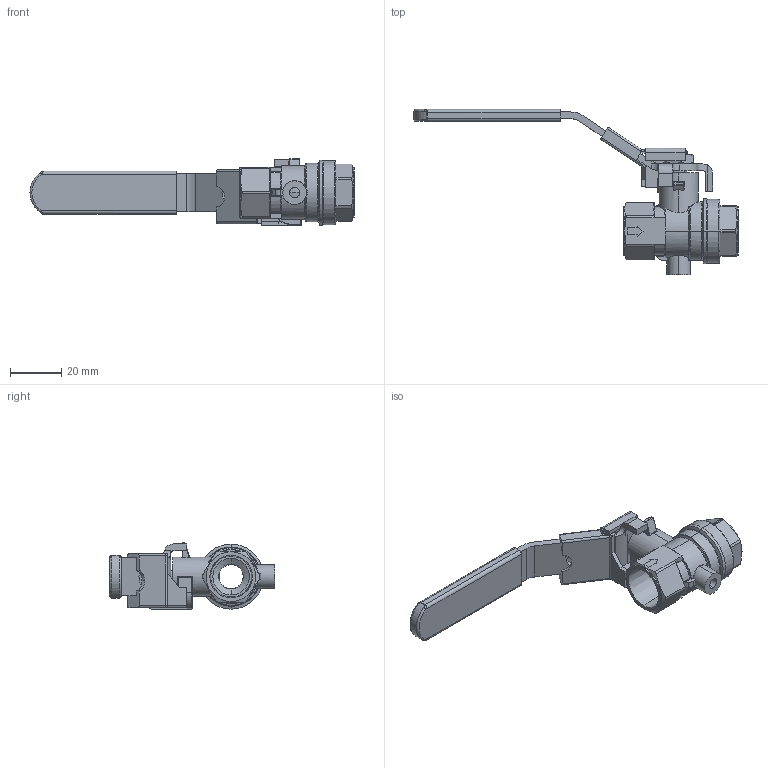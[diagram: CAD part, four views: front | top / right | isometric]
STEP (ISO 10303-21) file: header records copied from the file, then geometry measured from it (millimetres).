
FILE_DESCRIPTION (( 'STEP AP203' ), '1' );
FILE_NAME ('SEL-3.STEP', '2022-08-23T21:24:25', ( '' ), ( '' ), 'SwSTEP 2.0', 'SolidWorks 2021', '' );
FILE_SCHEMA (( 'CONFIG_CONTROL_DESIGN' ));
Length unit declared in the file: inch
Products named in the file (1): SEL-3
Bounding box: 126.9 x 64.64 x 25.93 mm (x, y, z)
Volume: 26895.8 mm3; surface area: 17795.2 mm2
Topology: 5 solids, 5 shells, 450 faces, 1170 edges, 725 vertices
Faces by surface type: plane 159, cylinder 149, bspline 53, cone 41, torus 38, sphere 10
Entity records: 16637 total; most frequent: CARTESIAN_POINT 6060, ORIENTED_EDGE 2318, DIRECTION 2086, EDGE_CURVE 1159, AXIS2_PLACEMENT_3D 786, VERTEX_POINT 720, VECTOR 514, LINE 514
